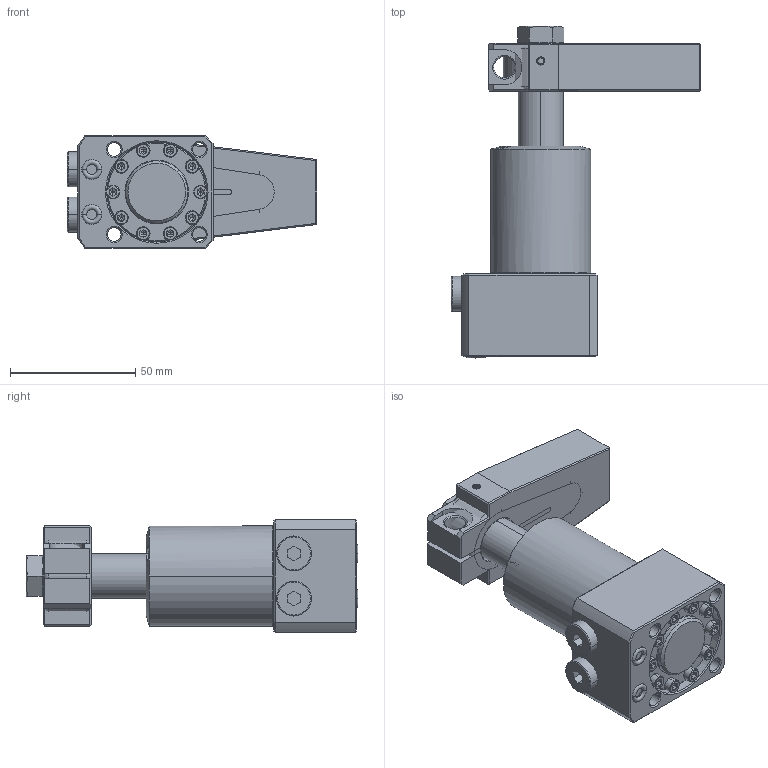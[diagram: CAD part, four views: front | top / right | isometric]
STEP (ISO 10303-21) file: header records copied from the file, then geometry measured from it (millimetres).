
FILE_DESCRIPTION((''),'2;1');
FILE_NAME('SIMP_GENERIC_SWING_CYD_40_ASM','2023-04-16T11:38:40',('Design 2'),(''),'CREO PARAMETRIC BY PTC INC, 2020053','CREO PARAMETRIC BY PTC INC, 2020053','');
FILE_SCHEMA(('CONFIG_CONTROL_DESIGN'));
Length unit declared in the file: millimetre
Products named in the file (16): BODY__; BODY_TOP_FLG___ASM; PISTON__; PISTON_ASM___ASM; SWINGER_ARM__; SWINGER_ARM_ASM___ASM; CLAMP__; HEXAGON_NUT__; CLAMP_2ND_TYPE__; 1_1_2_-__; 2_1_2_-__; HALDER_SEALING_PLUG_228800004_S_ASM; G-1-8-CLOSE_PLUGE; ORING-5X1-5SS; ISHCS03X12; SIMP_GENERIC_SWING_CYD_40_ASM
Assembly tree (26 placements, depth 3):
  SIMP_GENERIC_SWING_CYD_40_ASM
    BODY_TOP_FLG___ASM
      BODY__
    PISTON_ASM___ASM
      PISTON__
    SWINGER_ARM_ASM___ASM
      SWINGER_ARM__
    CLAMP__
    HEXAGON_NUT__
    CLAMP_2ND_TYPE__
    HALDER_SEALING_PLUG_228800004_S_ASM
      1_1_2_-__
      2_1_2_-__
    G-1-8-CLOSE_PLUGE  x2
    ORING-5X1-5SS  x2
    ISHCS03X12  x10
Bounding box: 99.8 x 132.7 x 45 mm (x, y, z)
Volume: 209899 mm3; surface area: 59234.2 mm2
Topology: 22 solids, 22 shells, 908 faces, 2085 edges, 1233 vertices
Faces by surface type: cylinder 306, plane 284, cone 216, torus 50, bspline 49, sphere 3
Entity records: 28704 total; most frequent: CARTESIAN_POINT 14993, ORIENTED_EDGE 2822, DIRECTION 2696, EDGE_CURVE 1411, AXIS2_PLACEMENT_3D 1022, VERTEX_POINT 859, EDGE_LOOP 660, VECTOR 652
